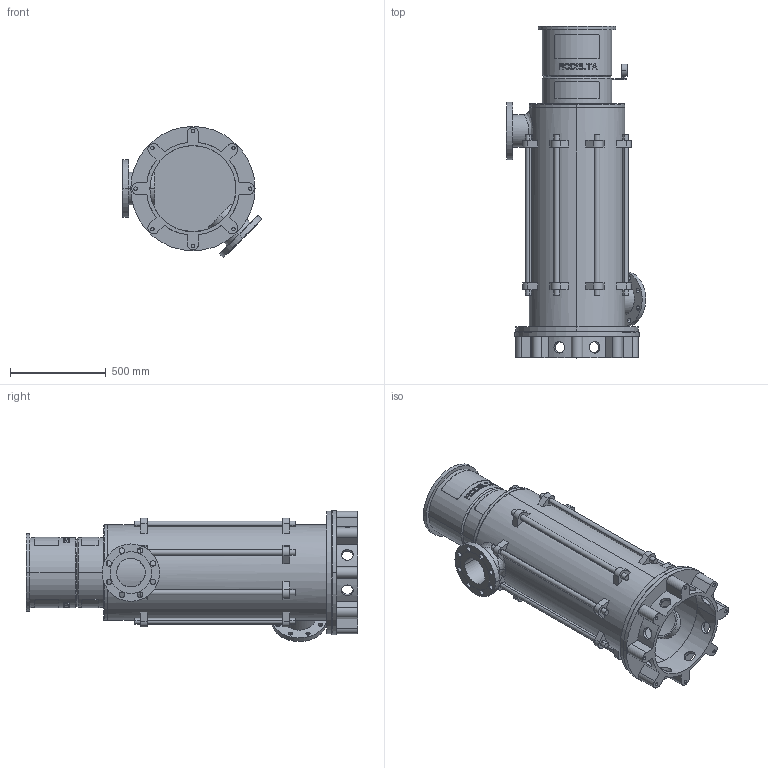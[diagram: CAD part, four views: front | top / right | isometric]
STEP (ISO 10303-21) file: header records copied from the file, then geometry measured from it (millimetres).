
FILE_DESCRIPTION((''),'2;1');
FILE_NAME('LS6_5TR_0GR_PN25_TOT_30KW','2025-10-24T12:17:06',('Lyritlocal'),(''),'CREO PARAMETRIC BY PTC INC, 2022014','CREO PARAMETRIC BY PTC INC, 2022014','');
FILE_SCHEMA(('CONFIG_CONTROL_DESIGN'));
Length unit declared in the file: millimetre
Products named in the file (1): LS6_5TR_0GR_PN25_TOT_30KW
Bounding box: 730.27 x 1735 x 685.27 mm (x, y, z)
Volume: 52844155.7 mm3; surface area: 7339795 mm2
Topology: 3 solids, 11 shells, 732 faces, 1889 edges, 1258 vertices
Faces by surface type: plane 438, cylinder 274, cone 12, bspline 8
Entity records: 24261 total; most frequent: CARTESIAN_POINT 6441, ORIENTED_EDGE 3746, DIRECTION 3535, EDGE_CURVE 1889, AXIS2_PLACEMENT_3D 1341, VERTEX_POINT 1258, EDGE_LOOP 895, VECTOR 853
